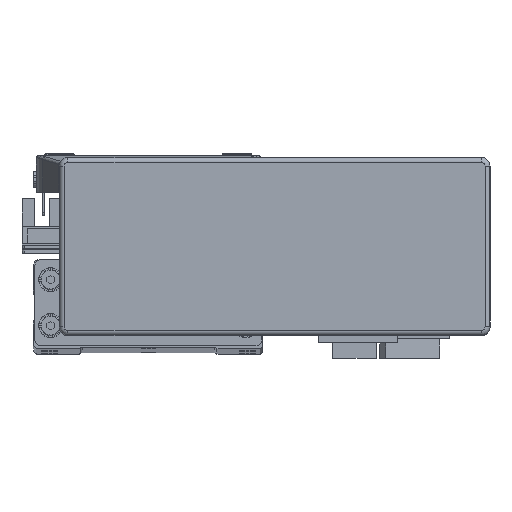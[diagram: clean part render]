
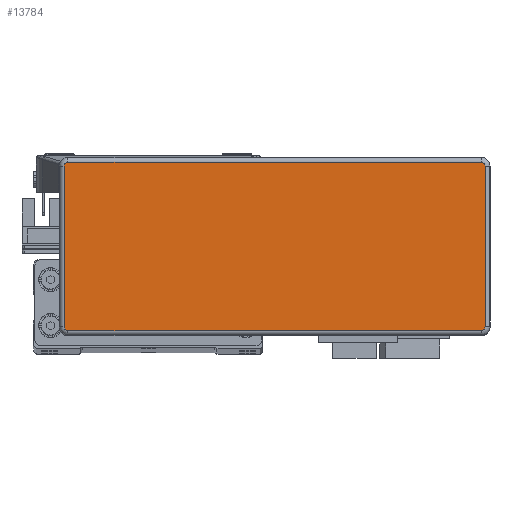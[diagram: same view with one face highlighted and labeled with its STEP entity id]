
A CAD part, top view. The second image highlights one B-rep face of the part: STEP entity #13784.
In plain terms, the highlighted planar face has unit normal (0, 0, 1) as drawn and (0, 0, -1) by its records, which use the part's own axes.
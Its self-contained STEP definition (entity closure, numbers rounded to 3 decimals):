
#2438 = CIRCLE ( 'NONE', #23354, 1.3 ) ;
#2464 = VECTOR ( 'NONE', #8305, 1000. ) ;
#2468 = VECTOR ( 'NONE', #7876, 1000. ) ;
#2486 = VECTOR ( 'NONE', #8263, 1000. ) ;
#2489 = LINE ( 'NONE', #7906, #2468 ) ;
#2520 = LINE ( 'NONE', #8299, #2464 ) ;
#2521 = LINE ( 'NONE', #8249, #2486 ) ;
#2529 = CIRCLE ( 'NONE', #23362, 1.3 ) ;
#2531 = VECTOR ( 'NONE', #8400, 1000. ) ;
#2549 = LINE ( 'NONE', #8425, #2531 ) ;
#2561 = CIRCLE ( 'NONE', #23401, 1.3 ) ;
#2572 = CIRCLE ( 'NONE', #23350, 1.3 ) ;
#6601 = CARTESIAN_POINT ( 'NONE',  ( 73.295, 27.995, -32.2 ) ) ;
#6609 = CARTESIAN_POINT ( 'NONE',  ( 73.295, -27.995, -32.2 ) ) ;
#6683 = CARTESIAN_POINT ( 'NONE',  ( -71.995, -29.295, -32.2 ) ) ;
#6685 = CARTESIAN_POINT ( 'NONE',  ( -73.295, -27.995, -32.2 ) ) ;
#6688 = CARTESIAN_POINT ( 'NONE',  ( -73.295, 27.995, -32.2 ) ) ;
#6692 = CARTESIAN_POINT ( 'NONE',  ( 71.995, 29.295, -32.2 ) ) ;
#6697 = CARTESIAN_POINT ( 'NONE',  ( 71.995, -29.295, -32.2 ) ) ;
#6698 = CARTESIAN_POINT ( 'NONE',  ( -71.995, 29.295, -32.2 ) ) ;
#7666 = CARTESIAN_POINT ( 'NONE',  ( 71.995, -27.995, -32.2 ) ) ;
#7672 = DIRECTION ( 'NONE',  ( 0., 0., -1. ) ) ;
#7701 = DIRECTION ( 'NONE',  ( 1., 0., 0. ) ) ;
#7876 = DIRECTION ( 'NONE',  ( 0., -1., 0. ) ) ;
#7906 = CARTESIAN_POINT ( 'NONE',  ( 73.295, -27.995, -32.2 ) ) ;
#8249 = CARTESIAN_POINT ( 'NONE',  ( 71.995, -29.295, -32.2 ) ) ;
#8263 = DIRECTION ( 'NONE',  ( -1., 0., 0. ) ) ;
#8299 = CARTESIAN_POINT ( 'NONE',  ( -73.295, -27.995, -32.2 ) ) ;
#8305 = DIRECTION ( 'NONE',  ( 0., 1., 0. ) ) ;
#8400 = DIRECTION ( 'NONE',  ( 1., 0., 0. ) ) ;
#8403 = DIRECTION ( 'NONE',  ( 0., 0., -1. ) ) ;
#8425 = CARTESIAN_POINT ( 'NONE',  ( 71.995, 29.295, -32.2 ) ) ;
#8429 = CARTESIAN_POINT ( 'NONE',  ( -71.995, 27.995, -32.2 ) ) ;
#8435 = CARTESIAN_POINT ( 'NONE',  ( 71.995, 27.995, -32.2 ) ) ;
#8447 = DIRECTION ( 'NONE',  ( 0., 0., -1. ) ) ;
#8456 = DIRECTION ( 'NONE',  ( 1., 0., 0. ) ) ;
#8487 = DIRECTION ( 'NONE',  ( 1., 0., 0. ) ) ;
#8881 = DIRECTION ( 'NONE',  ( 0., 0., -1. ) ) ;
#8902 = DIRECTION ( 'NONE',  ( 1., 0., 0. ) ) ;
#8937 = CARTESIAN_POINT ( 'NONE',  ( -71.995, -27.995, -32.2 ) ) ;
#13784 = ADVANCED_FACE ( 'NONE', ( #30193 ), #31269, .F. ) ;
#15573 = EDGE_CURVE ( 'NONE', #40571, #40593, #2438, .T. ) ;
#15597 = EDGE_CURVE ( 'NONE', #40553, #40571, #2489, .T. ) ;
#15627 = EDGE_CURVE ( 'NONE', #40593, #40665, #2521, .T. ) ;
#15632 = EDGE_CURVE ( 'NONE', #40607, #40569, #2520, .T. ) ;
#15648 = EDGE_CURVE ( 'NONE', #40653, #40553, #2572, .T. ) ;
#15656 = EDGE_CURVE ( 'NONE', #40569, #40581, #2529, .T. ) ;
#15657 = EDGE_CURVE ( 'NONE', #40581, #40653, #2549, .T. ) ;
#15681 = EDGE_CURVE ( 'NONE', #40665, #40607, #2561, .T. ) ;
#23350 = AXIS2_PLACEMENT_3D ( 'NONE', #8435, #8447, #8456 ) ;
#23354 = AXIS2_PLACEMENT_3D ( 'NONE', #7666, #7672, #7701 ) ;
#23362 = AXIS2_PLACEMENT_3D ( 'NONE', #8429, #8403, #8487 ) ;
#23401 = AXIS2_PLACEMENT_3D ( 'NONE', #8937, #8881, #8902 ) ;
#27367 = AXIS2_PLACEMENT_3D ( 'NONE', #31255, #31232, #31220 ) ;
#30193 = FACE_OUTER_BOUND ( 'NONE', #36783, .T. ) ;
#31220 = DIRECTION ( 'NONE',  ( 1., 0., 0. ) ) ;
#31232 = DIRECTION ( 'NONE',  ( 0., 0., 1. ) ) ;
#31255 = CARTESIAN_POINT ( 'NONE',  ( 71.995, -27.995, -32.2 ) ) ;
#31269 = PLANE ( 'NONE',  #27367 ) ;
#36783 = EDGE_LOOP ( 'NONE', ( #41815, #41822, #41817, #41803, #41065, #41161, #41141, #41097 ) ) ;
#40553 = VERTEX_POINT ( 'NONE', #6601 ) ;
#40569 = VERTEX_POINT ( 'NONE', #6688 ) ;
#40571 = VERTEX_POINT ( 'NONE', #6609 ) ;
#40581 = VERTEX_POINT ( 'NONE', #6698 ) ;
#40593 = VERTEX_POINT ( 'NONE', #6697 ) ;
#40607 = VERTEX_POINT ( 'NONE', #6685 ) ;
#40653 = VERTEX_POINT ( 'NONE', #6692 ) ;
#40665 = VERTEX_POINT ( 'NONE', #6683 ) ;
#41065 = ORIENTED_EDGE ( 'NONE', *, *, #15632, .T. ) ;
#41097 = ORIENTED_EDGE ( 'NONE', *, *, #15648, .T. ) ;
#41141 = ORIENTED_EDGE ( 'NONE', *, *, #15657, .T. ) ;
#41161 = ORIENTED_EDGE ( 'NONE', *, *, #15656, .T. ) ;
#41803 = ORIENTED_EDGE ( 'NONE', *, *, #15681, .T. ) ;
#41815 = ORIENTED_EDGE ( 'NONE', *, *, #15597, .T. ) ;
#41817 = ORIENTED_EDGE ( 'NONE', *, *, #15627, .T. ) ;
#41822 = ORIENTED_EDGE ( 'NONE', *, *, #15573, .T. ) ;
